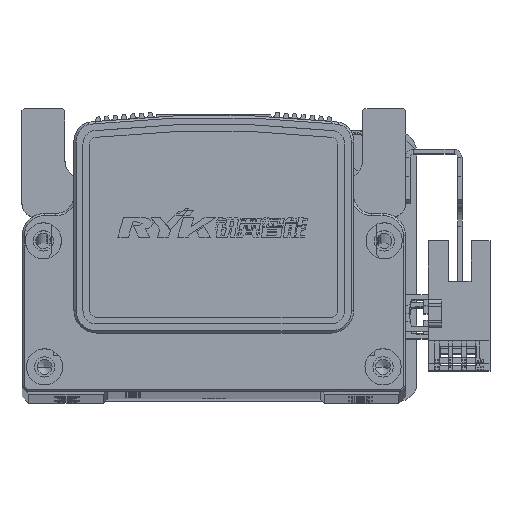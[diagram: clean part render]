
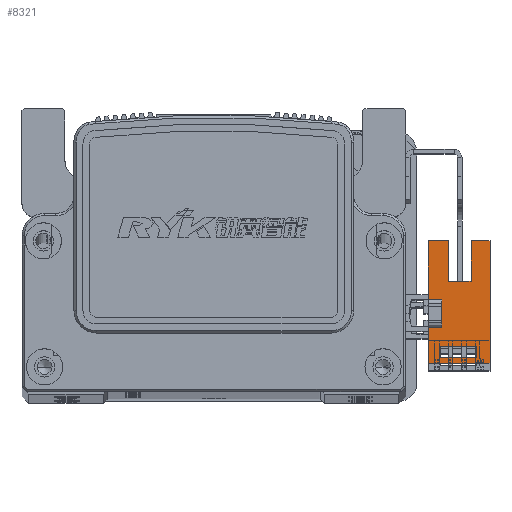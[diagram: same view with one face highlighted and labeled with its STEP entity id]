
A CAD part, top view. The second image highlights one B-rep face of the part: STEP entity #8321.
In plain terms, the highlighted planar face has unit normal (0, 0, 1) as drawn and (1, 0, 0) by its records, which use the part's own axes.
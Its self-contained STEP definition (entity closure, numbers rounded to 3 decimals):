
#8321 = ADVANCED_FACE ( 'NONE', ( #62065, #62083 ), #63578, .T. ) ;
#11559 = VECTOR ( 'NONE', #13975, 1000. ) ;
#11563 = VECTOR ( 'NONE', #13988, 1000. ) ;
#11566 = LINE ( 'NONE', #14016, #11574 ) ;
#11573 = LINE ( 'NONE', #14011, #11563 ) ;
#11574 = VECTOR ( 'NONE', #13997, 1000. ) ;
#11587 = LINE ( 'NONE', #14008, #11559 ) ;
#11599 = LINE ( 'NONE', #13986, #11602 ) ;
#11601 = VECTOR ( 'NONE', #14029, 1000. ) ;
#11602 = VECTOR ( 'NONE', #13993, 1000. ) ;
#11607 = LINE ( 'NONE', #14047, #11601 ) ;
#11623 = VECTOR ( 'NONE', #14119, 1000. ) ;
#11631 = LINE ( 'NONE', #14069, #11678 ) ;
#11633 = LINE ( 'NONE', #14061, #11640 ) ;
#11640 = VECTOR ( 'NONE', #14068, 1000. ) ;
#11643 = LINE ( 'NONE', #14118, #11623 ) ;
#11678 = VECTOR ( 'NONE', #14071, 1000. ) ;
#11681 = LINE ( 'NONE', #14168, #11684 ) ;
#11684 = VECTOR ( 'NONE', #14164, 1000. ) ;
#11685 = LINE ( 'NONE', #14182, #11687 ) ;
#11686 = VECTOR ( 'NONE', #14181, 1000. ) ;
#11687 = VECTOR ( 'NONE', #14178, 1000. ) ;
#11700 = LINE ( 'NONE', #14171, #11686 ) ;
#11727 = LINE ( 'NONE', #14157, #11740 ) ;
#11740 = VECTOR ( 'NONE', #14150, 1000. ) ;
#11741 = LINE ( 'NONE', #14162, #11742 ) ;
#11742 = VECTOR ( 'NONE', #14151, 1000. ) ;
#11746 = VECTOR ( 'NONE', #14200, 1000. ) ;
#11750 = LINE ( 'NONE', #14173, #11746 ) ;
#11754 = LINE ( 'NONE', #14202, #11805 ) ;
#11774 = VECTOR ( 'NONE', #14213, 1000. ) ;
#11792 = LINE ( 'NONE', #14197, #11774 ) ;
#11805 = VECTOR ( 'NONE', #14188, 1000. ) ;
#13975 = DIRECTION ( 'NONE',  ( 0., 0., -1. ) ) ;
#13986 = CARTESIAN_POINT ( 'NONE',  ( 3.2, 16.1, 3. ) ) ;
#13988 = DIRECTION ( 'NONE',  ( 0., 1., 0. ) ) ;
#13993 = DIRECTION ( 'NONE',  ( 0., 1., 0. ) ) ;
#13997 = DIRECTION ( 'NONE',  ( 0., 1., 0. ) ) ;
#14008 = CARTESIAN_POINT ( 'NONE',  ( 3.2, -3.1, 3. ) ) ;
#14011 = CARTESIAN_POINT ( 'NONE',  ( 3.2, 16.1, 3. ) ) ;
#14016 = CARTESIAN_POINT ( 'NONE',  ( 3.2, 25.1, -1.5 ) ) ;
#14029 = DIRECTION ( 'NONE',  ( 0., 0., 1. ) ) ;
#14047 = CARTESIAN_POINT ( 'NONE',  ( 3.2, 16.1, -10.7 ) ) ;
#14061 = CARTESIAN_POINT ( 'NONE',  ( 3.2, 25.1, -6.5 ) ) ;
#14068 = DIRECTION ( 'NONE',  ( 0., -1., 0. ) ) ;
#14069 = CARTESIAN_POINT ( 'NONE',  ( 3.2, -7.33, -10.7 ) ) ;
#14071 = DIRECTION ( 'NONE',  ( 0., 0., 1. ) ) ;
#14118 = CARTESIAN_POINT ( 'NONE',  ( 3.2, 3.1, 3. ) ) ;
#14119 = DIRECTION ( 'NONE',  ( 0., 0., 1. ) ) ;
#14150 = DIRECTION ( 'NONE',  ( 0., 0., 1. ) ) ;
#14151 = DIRECTION ( 'NONE',  ( 0., 0., -1. ) ) ;
#14157 = CARTESIAN_POINT ( 'NONE',  ( 3.2, 16.1, -10.7 ) ) ;
#14162 = CARTESIAN_POINT ( 'NONE',  ( 3.2, -9.83, -10.7 ) ) ;
#14164 = DIRECTION ( 'NONE',  ( 0., 1., 0. ) ) ;
#14168 = CARTESIAN_POINT ( 'NONE',  ( 3.2, 0., 0. ) ) ;
#14171 = CARTESIAN_POINT ( 'NONE',  ( 3.2, 16.1, -10.7 ) ) ;
#14173 = CARTESIAN_POINT ( 'NONE',  ( 3.2, -11.1, 3. ) ) ;
#14178 = DIRECTION ( 'NONE',  ( 0., -1., 0. ) ) ;
#14181 = DIRECTION ( 'NONE',  ( 0., 1., 0. ) ) ;
#14182 = CARTESIAN_POINT ( 'NONE',  ( 3.2, 16.1, 0.3 ) ) ;
#14188 = DIRECTION ( 'NONE',  ( 0., 1., 0. ) ) ;
#14197 = CARTESIAN_POINT ( 'NONE',  ( 3.2, 7.1, -6.5 ) ) ;
#14200 = DIRECTION ( 'NONE',  ( 0., 0., 1. ) ) ;
#14202 = CARTESIAN_POINT ( 'NONE',  ( 3.2, 16.1, -7.7 ) ) ;
#14213 = DIRECTION ( 'NONE',  ( 0., 0., 1. ) ) ;
#29936 = EDGE_CURVE ( 'NONE', #48763, #48742, #11566, .T. ) ;
#29940 = EDGE_CURVE ( 'NONE', #48863, #48832, #11573, .T. ) ;
#29954 = EDGE_CURVE ( 'NONE', #48748, #48773, #11587, .T. ) ;
#29956 = EDGE_CURVE ( 'NONE', #48622, #48748, #11599, .T. ) ;
#29967 = EDGE_CURVE ( 'NONE', #48707, #48712, #11607, .T. ) ;
#30023 = EDGE_CURVE ( 'NONE', #48712, #48776, #11633, .T. ) ;
#30028 = EDGE_CURVE ( 'NONE', #48799, #48790, #11631, .T. ) ;
#30029 = EDGE_CURVE ( 'NONE', #48740, #48863, #11643, .T. ) ;
#30069 = EDGE_CURVE ( 'NONE', #48783, #48707, #11700, .T. ) ;
#30075 = EDGE_CURVE ( 'NONE', #48742, #48832, #11727, .T. ) ;
#30079 = EDGE_CURVE ( 'NONE', #48812, #48778, #11741, .T. ) ;
#30083 = EDGE_CURVE ( 'NONE', #48773, #48740, #11681, .T. ) ;
#30088 = EDGE_CURVE ( 'NONE', #48790, #48812, #11685, .T. ) ;
#30097 = EDGE_CURVE ( 'NONE', #48783, #48622, #11750, .T. ) ;
#30121 = EDGE_CURVE ( 'NONE', #48778, #48799, #11754, .T. ) ;
#30127 = EDGE_CURVE ( 'NONE', #48776, #48763, #11792, .T. ) ;
#33512 = CARTESIAN_POINT ( 'NONE',  ( 3.2, -11.1, 3. ) ) ;
#38319 = CARTESIAN_POINT ( 'NONE',  ( 3.2, 16.1, -10.7 ) ) ;
#38323 = CARTESIAN_POINT ( 'NONE',  ( 3.2, 16.1, -6.5 ) ) ;
#38399 = CARTESIAN_POINT ( 'NONE',  ( 3.2, -9.83, -7.7 ) ) ;
#38403 = CARTESIAN_POINT ( 'NONE',  ( 3.2, 7.1, -1.5 ) ) ;
#38420 = CARTESIAN_POINT ( 'NONE',  ( 3.2, -11.1, -10.7 ) ) ;
#38425 = CARTESIAN_POINT ( 'NONE',  ( 3.2, -3.1, 3. ) ) ;
#38435 = CARTESIAN_POINT ( 'NONE',  ( 3.2, -3.1, 0. ) ) ;
#38438 = CARTESIAN_POINT ( 'NONE',  ( 3.2, 3.1, 0. ) ) ;
#38461 = CARTESIAN_POINT ( 'NONE',  ( 3.2, 7.1, -6.5 ) ) ;
#38464 = CARTESIAN_POINT ( 'NONE',  ( 3.2, -9.83, 0.3 ) ) ;
#38472 = CARTESIAN_POINT ( 'NONE',  ( 3.2, 16.1, -1.5 ) ) ;
#38483 = CARTESIAN_POINT ( 'NONE',  ( 3.2, -7.33, 0.3 ) ) ;
#38488 = CARTESIAN_POINT ( 'NONE',  ( 3.2, -7.33, -7.7 ) ) ;
#38522 = CARTESIAN_POINT ( 'NONE',  ( 3.2, 16.1, 3. ) ) ;
#38591 = CARTESIAN_POINT ( 'NONE',  ( 3.2, 3.1, 3. ) ) ;
#38757 = ORIENTED_EDGE ( 'NONE', *, *, #30127, .T. ) ;
#38762 = ORIENTED_EDGE ( 'NONE', *, *, #29936, .T. ) ;
#38772 = ORIENTED_EDGE ( 'NONE', *, *, #30069, .T. ) ;
#38783 = ORIENTED_EDGE ( 'NONE', *, *, #30083, .F. ) ;
#38801 = ORIENTED_EDGE ( 'NONE', *, *, #30079, .F. ) ;
#38805 = ORIENTED_EDGE ( 'NONE', *, *, #30028, .F. ) ;
#38809 = ORIENTED_EDGE ( 'NONE', *, *, #29967, .T. ) ;
#38811 = ORIENTED_EDGE ( 'NONE', *, *, #30121, .F. ) ;
#38835 = ORIENTED_EDGE ( 'NONE', *, *, #30097, .F. ) ;
#38840 = ORIENTED_EDGE ( 'NONE', *, *, #30029, .F. ) ;
#39762 = ORIENTED_EDGE ( 'NONE', *, *, #30088, .F. ) ;
#39769 = ORIENTED_EDGE ( 'NONE', *, *, #29956, .F. ) ;
#39800 = ORIENTED_EDGE ( 'NONE', *, *, #30075, .T. ) ;
#39815 = ORIENTED_EDGE ( 'NONE', *, *, #29940, .F. ) ;
#39856 = ORIENTED_EDGE ( 'NONE', *, *, #29954, .F. ) ;
#39875 = ORIENTED_EDGE ( 'NONE', *, *, #30023, .T. ) ;
#41361 = EDGE_LOOP ( 'NONE', ( #39875, #38757, #38762, #39800, #39815, #38840, #38783, #39856, #39769, #38835, #38772, #38809 ) ) ;
#41449 = EDGE_LOOP ( 'NONE', ( #39762, #38805, #38811, #38801 ) ) ;
#48622 = VERTEX_POINT ( 'NONE', #33512 ) ;
#48707 = VERTEX_POINT ( 'NONE', #38319 ) ;
#48712 = VERTEX_POINT ( 'NONE', #38323 ) ;
#48740 = VERTEX_POINT ( 'NONE', #38438 ) ;
#48742 = VERTEX_POINT ( 'NONE', #38472 ) ;
#48748 = VERTEX_POINT ( 'NONE', #38425 ) ;
#48763 = VERTEX_POINT ( 'NONE', #38403 ) ;
#48773 = VERTEX_POINT ( 'NONE', #38435 ) ;
#48776 = VERTEX_POINT ( 'NONE', #38461 ) ;
#48778 = VERTEX_POINT ( 'NONE', #38399 ) ;
#48783 = VERTEX_POINT ( 'NONE', #38420 ) ;
#48790 = VERTEX_POINT ( 'NONE', #38483 ) ;
#48799 = VERTEX_POINT ( 'NONE', #38488 ) ;
#48812 = VERTEX_POINT ( 'NONE', #38464 ) ;
#48832 = VERTEX_POINT ( 'NONE', #38522 ) ;
#48863 = VERTEX_POINT ( 'NONE', #38591 ) ;
#56602 = AXIS2_PLACEMENT_3D ( 'NONE', #63585, #63587, #63633 ) ;
#62065 = FACE_OUTER_BOUND ( 'NONE', #41361, .T. ) ;
#62083 = FACE_BOUND ( 'NONE', #41449, .T. ) ;
#63578 = PLANE ( 'NONE',  #56602 ) ;
#63585 = CARTESIAN_POINT ( 'NONE',  ( 3.2, 16.1, -10.7 ) ) ;
#63587 = DIRECTION ( 'NONE',  ( 1., 0., 0. ) ) ;
#63633 = DIRECTION ( 'NONE',  ( 0., 1., 0. ) ) ;
